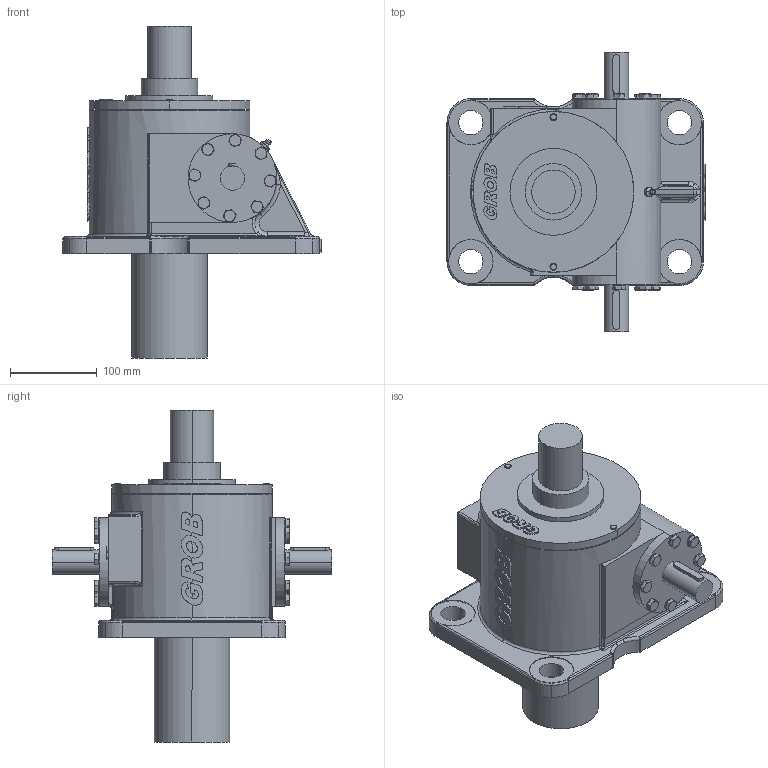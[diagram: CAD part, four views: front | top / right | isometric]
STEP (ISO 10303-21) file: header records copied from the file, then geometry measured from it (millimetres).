
FILE_DESCRIPTION(('STEP AP203'),'1');
FILE_NAME('mc20-gn-f-1f-ge-0100-0000-tr65x12-ab-mg0-o_ohne.stp','2023-12-18T13:32:47',('TraceParts'),('TraceParts S.A.'),'Spatial InterOp 3D',' ',' ');
FILE_SCHEMA(('CONFIG_CONTROL_DESIGN'));
Length unit declared in the file: millimetre
Products named in the file (1): 1
Bounding box: 296.9 x 322 x 382 mm (x, y, z)
Volume: 8586681.4 mm3; surface area: 424316.1 mm2
Topology: 3 solids, 19 shells, 1088 faces, 2672 edges, 1686 vertices
Faces by surface type: cylinder 509, plane 368, cone 154, torus 26, bspline 22, sphere 9
Entity records: 33976 total; most frequent: CARTESIAN_POINT 8220, DIRECTION 5617, ORIENTED_EDGE 5298, EDGE_CURVE 2649, AXIS2_PLACEMENT_3D 2246, VERTEX_POINT 1686, EDGE_LOOP 1219, CIRCLE 1152
